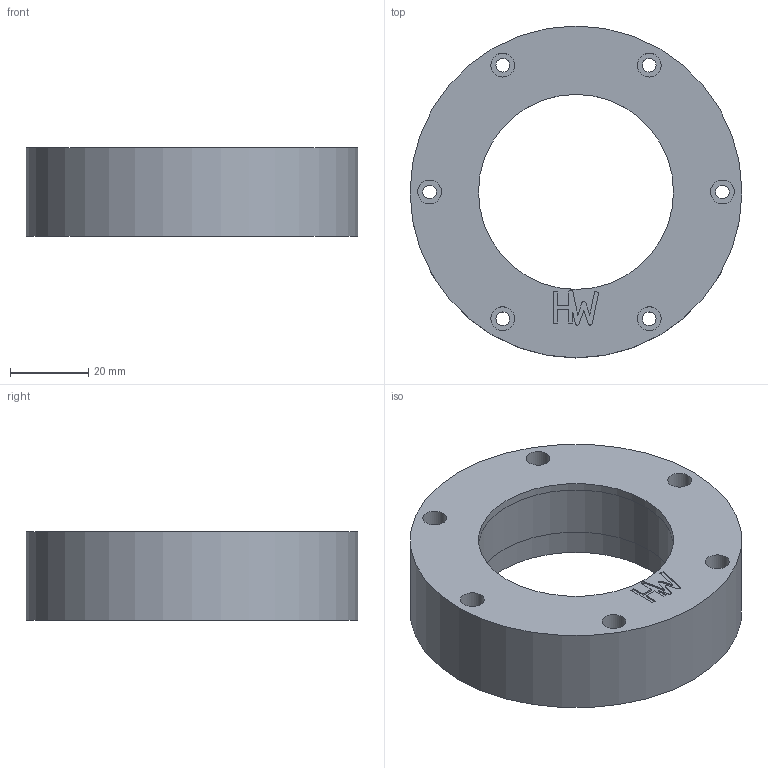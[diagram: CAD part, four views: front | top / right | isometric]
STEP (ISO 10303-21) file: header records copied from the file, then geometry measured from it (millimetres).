
FILE_DESCRIPTION(/* description */ (''),/* implementation_level */ '2;1');
FILE_NAME(/* name */ 'HW-Cycloid25_Housing_Cap.step',/* time_stamp */ '2026-10-21T02:01:43-07:00',/* author */ (''),/* organization */ (''),/* preprocessor_version */ 'ST-DEVELOPER v20.2',/* originating_system */ 'Autodesk Translation Framework v15.15.0.0',/* authorisation */ '');
FILE_SCHEMA (('AUTOMOTIVE_DESIGN { 1 0 10303 214 3 1 1 }'));
Length unit declared in the file: millimetre
Products named in the file (1): 2026-10-21-02-01-43-614
Bounding box: 84.99 x 84.99 x 22.61 mm (x, y, z)
Volume: 76838.8 mm3; surface area: 19294.9 mm2
Topology: 1 solids, 1 shells, 51 faces, 120 edges, 80 vertices
Faces by surface type: plane 31, cylinder 20
Full cylindrical faces by diameter (mm): 3.5 x6, 6.1 x6, 49.95 x1, 52.14 x1, 52.99 x1, 84.99 x1
Entity records: 1535 total; most frequent: DIRECTION 264, CARTESIAN_POINT 252, ORIENTED_EDGE 240, EDGE_CURVE 120, AXIS2_PLACEMENT_3D 92, LINE 80, VECTOR 80, VERTEX_POINT 80
